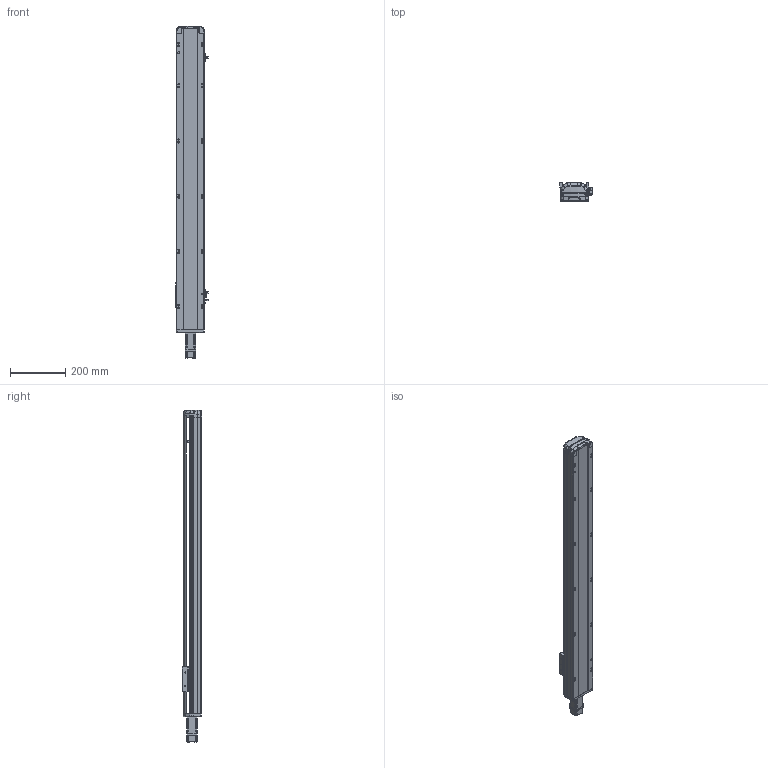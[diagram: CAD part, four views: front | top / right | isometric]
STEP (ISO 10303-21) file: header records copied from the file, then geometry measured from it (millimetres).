
FILE_DESCRIPTION (( 'STEP AP214' ), '1' );
FILE_NAME ('RTH10-XX-850-E-M10-C4.STEP', '2025-10-25T05:27:06', ( 'Microsoft' ), ( 'Microsoft' ), 'SwSTEP 2.0', 'SolidWorks 2018', '' );
FILE_SCHEMA (( 'AUTOMOTIVE_DESIGN' ));
Length unit declared in the file: millimetre
Products named in the file (9): N_RTH12-E-011P-臏倰第菁釱^RTH10-XX-XX-E-M10-C4; N_RTH13-L-012覜茼え俋离^RTH10-XX-XX-E-M10-C4; N_RTH12-E-008-M10萇儂啣^RTH10-XX-XX-E-M10-C4; N_RTH12-GY-004-賑釱^RTH10-XX-XX-E-M10-C4; N_OMRON EE-SX672 传感器^RTH10-XX-XX-E-M10-C4; N_RTH12-E-007P-奻裔^RTH10-XX-XX-E-M10-C4; RTH10-XX-850-E-M10-C4; N_P10^RTH10-XX-XX-E-M10-C4; N_RTH12-GY-001P^RTH10-XX-XX-E-M10-C4
Assembly tree (10 placements, depth 2):
  RTH10-XX-850-E-M10-C4
    N_RTH12-E-011P-臏倰第菁釱^RTH10-XX-XX-E-M10-C4
    N_RTH13-L-012覜茼え俋离^RTH10-XX-XX-E-M10-C4
    N_OMRON EE-SX672 传感器^RTH10-XX-XX-E-M10-C4  x3
    N_P10^RTH10-XX-XX-E-M10-C4
    N_RTH12-E-007P-奻裔^RTH10-XX-XX-E-M10-C4
    N_RTH12-E-008-M10萇儂啣^RTH10-XX-XX-E-M10-C4
    N_RTH12-GY-001P^RTH10-XX-XX-E-M10-C4
    N_RTH12-GY-004-賑釱^RTH10-XX-XX-E-M10-C4
Bounding box: 116.5 x 70 x 1203.34 mm (x, y, z)
Volume: 4374179.5 mm3; surface area: 686599 mm2
Topology: 9 solids, 11 shells, 1972 faces, 5497 edges, 3606 vertices
Faces by surface type: plane 976, cylinder 489, bspline 472, cone 33, torus 2
Entity records: 59461 total; most frequent: CARTESIAN_POINT 23474, ORIENTED_EDGE 8074, DIRECTION 6241, EDGE_CURVE 4043, VERTEX_POINT 2650, VECTOR 2127, LINE 2127, AXIS2_PLACEMENT_3D 2057
